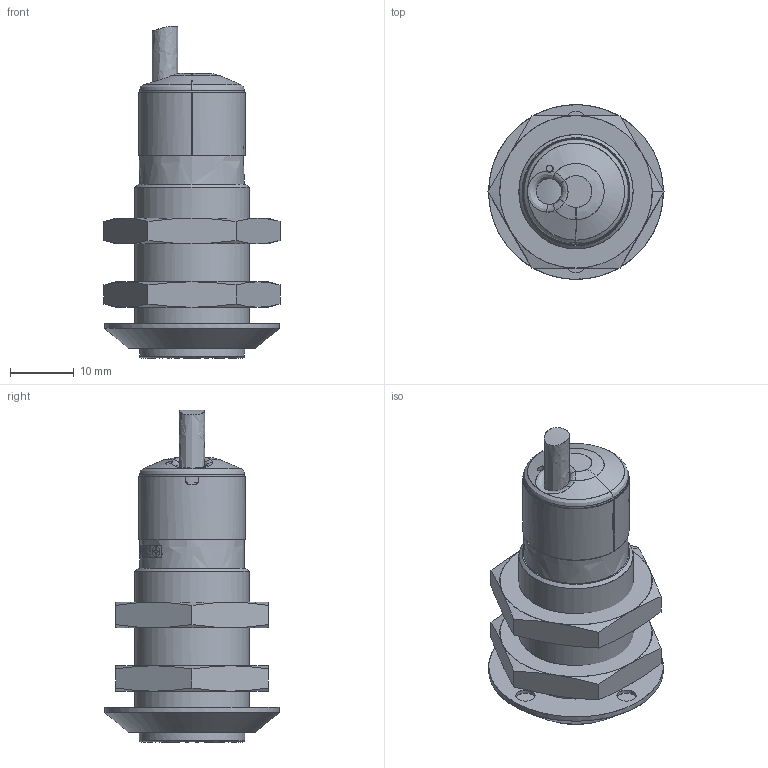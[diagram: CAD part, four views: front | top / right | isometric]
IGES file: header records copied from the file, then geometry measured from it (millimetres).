
Global section: file name: D:\CS\S15\DSD-0513.igs; native system: NX V7.5; preprocessor: SIEMENS PLM Software NX 7.5; date: 20130305.112319; units: millimetre
Bounding box: 27.71 x 27.5 x 52.28 mm (x, y, z)
Surface area: 24659.3 mm2 (no closed solid volume)
Topology: 0 solids, 0 shells, 779 faces, 10657 edges, 10587 vertices
Faces by surface type: bspline 779
